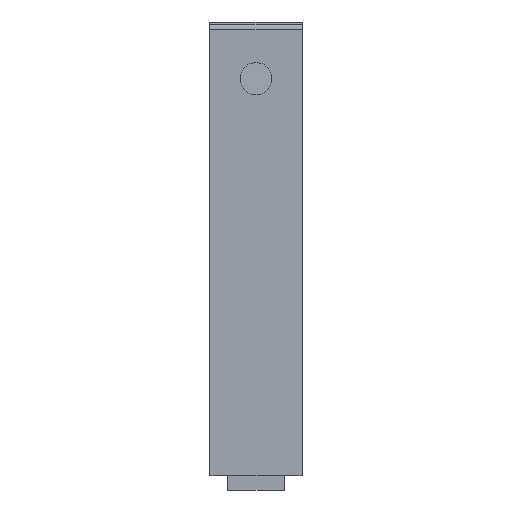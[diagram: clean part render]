
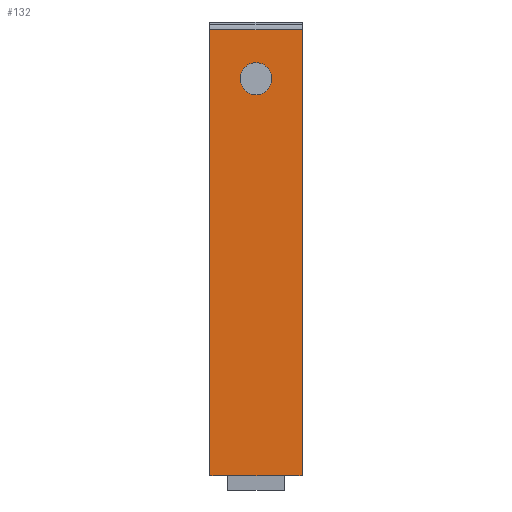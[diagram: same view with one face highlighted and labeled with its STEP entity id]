
A CAD part, left-side view. The second image highlights one B-rep face of the part: STEP entity #132.
In plain terms, the highlighted planar face has unit normal (-1, 0, 0).
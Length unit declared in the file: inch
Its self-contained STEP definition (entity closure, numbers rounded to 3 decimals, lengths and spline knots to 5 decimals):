
#132=ADVANCED_FACE('',(#275,#276),#277,.T.);
#275=FACE_OUTER_BOUND('',#511,.T.);
#276=FACE_BOUND('',#512,.T.);
#277=PLANE('',#513);
#511=EDGE_LOOP('',(#865,#866,#867,#868,#869,#870));
#512=EDGE_LOOP('',(#871,#872,#873,#874));
#513=AXIS2_PLACEMENT_3D('',#875,#876,#877);
#865=ORIENTED_EDGE('',*,*,#1077,.F.);
#866=ORIENTED_EDGE('',*,*,#1105,.T.);
#867=ORIENTED_EDGE('',*,*,#1045,.F.);
#868=ORIENTED_EDGE('',*,*,#1060,.F.);
#869=ORIENTED_EDGE('',*,*,#1009,.F.);
#870=ORIENTED_EDGE('',*,*,#1033,.F.);
#871=ORIENTED_EDGE('',*,*,#1028,.F.);
#872=ORIENTED_EDGE('',*,*,#1106,.F.);
#873=ORIENTED_EDGE('',*,*,#1067,.F.);
#874=ORIENTED_EDGE('',*,*,#1101,.F.);
#875=CARTESIAN_POINT('',(0.0,0.40625,4.));
#876=DIRECTION('',(-1.0,0.0,0.0));
#877=DIRECTION('',(0.0,1.0,0.0));
#1009=EDGE_CURVE('',#1219,#1217,#1221,.T.);
#1028=EDGE_CURVE('',#1252,#1253,#1254,.T.);
#1033=EDGE_CURVE('',#1258,#1219,#1261,.T.);
#1045=EDGE_CURVE('',#1274,#1276,#1277,.T.);
#1060=EDGE_CURVE('',#1217,#1274,#1298,.T.);
#1067=EDGE_CURVE('',#1305,#1306,#1307,.T.);
#1077=EDGE_CURVE('',#1319,#1258,#1321,.T.);
#1101=EDGE_CURVE('',#1253,#1305,#1351,.T.);
#1105=EDGE_CURVE('',#1319,#1276,#1355,.T.);
#1106=EDGE_CURVE('',#1306,#1252,#1356,.T.);
#1217=VERTEX_POINT('',#1548);
#1219=VERTEX_POINT('',#1551);
#1221=LINE('',#1554,#1555);
#1252=VERTEX_POINT('',#1622);
#1253=VERTEX_POINT('',#1623);
#1254=B_SPLINE_CURVE_WITH_KNOTS('',3,(#1624,#1625,#1626,#1627),.UNSPECIFIED.,.F.,.F.,(4,4),(-1.0,-0.0),.UNSPECIFIED.);
#1258=VERTEX_POINT('',#1633);
#1261=LINE('',#1636,#1637);
#1274=VERTEX_POINT('',#1653);
#1276=VERTEX_POINT('',#1656);
#1277=LINE('',#1657,#1658);
#1298=LINE('',#1693,#1694);
#1305=VERTEX_POINT('',#1705);
#1306=VERTEX_POINT('',#1706);
#1307=B_SPLINE_CURVE_WITH_KNOTS('',3,(#1707,#1708,#1709,#1710),.UNSPECIFIED.,.F.,.F.,(4,4),(-1.0,-0.0),.UNSPECIFIED.);
#1319=VERTEX_POINT('',#1726);
#1321=LINE('',#1728,#1729);
#1351=B_SPLINE_CURVE_WITH_KNOTS('',3,(#1781,#1782,#1783,#1784),.UNSPECIFIED.,.F.,.F.,(4,4),(-1.0,-0.0),.UNSPECIFIED.);
#1355=LINE('',#1789,#1790);
#1356=B_SPLINE_CURVE_WITH_KNOTS('',3,(#1791,#1792,#1793,#1794),.UNSPECIFIED.,.F.,.F.,(4,4),(-1.0,-0.0),.UNSPECIFIED.);
#1548=CARTESIAN_POINT('',(0.0,0.15625,0.));
#1551=CARTESIAN_POINT('',(0.0,0.,0.));
#1554=CARTESIAN_POINT('',(0.0,0.,0.));
#1555=VECTOR('',#1841,1.);
#1622=CARTESIAN_POINT('',(0.0,0.40625,3.641));
#1623=CARTESIAN_POINT('',(0.0,0.5469,3.50037));
#1624=CARTESIAN_POINT('',(0.0,0.40625,3.641));
#1625=CARTESIAN_POINT('',(0.0,0.48393,3.641));
#1626=CARTESIAN_POINT('',(0.0,0.5469,3.57804));
#1627=CARTESIAN_POINT('',(0.0,0.5469,3.50037));
#1633=CARTESIAN_POINT('',(0.0,0.0,3.93));
#1636=CARTESIAN_POINT('',(0.0,0.0,4.));
#1637=VECTOR('',#1853,1.);
#1653=CARTESIAN_POINT('',(0.0,0.65625,0.));
#1656=CARTESIAN_POINT('',(0.0,0.8125,0.));
#1657=CARTESIAN_POINT('',(0.0,0.,0.));
#1658=VECTOR('',#1870,1.);
#1693=CARTESIAN_POINT('',(0.0,0.53125,0.));
#1694=VECTOR('',#1879,1.0);
#1705=CARTESIAN_POINT('',(0.0,0.40625,3.35975));
#1706=CARTESIAN_POINT('',(0.0,0.26561,3.50037));
#1707=CARTESIAN_POINT('',(0.0,0.40625,3.35975));
#1708=CARTESIAN_POINT('',(0.0,0.32857,3.35975));
#1709=CARTESIAN_POINT('',(0.0,0.26561,3.42271));
#1710=CARTESIAN_POINT('',(0.0,0.26561,3.50037));
#1726=CARTESIAN_POINT('',(0.0,0.8125,3.93));
#1728=CARTESIAN_POINT('',(0.0,0.40625,3.93));
#1729=VECTOR('',#1897,1.);
#1781=CARTESIAN_POINT('',(0.0,0.5469,3.50037));
#1782=CARTESIAN_POINT('',(0.0,0.5469,3.42271));
#1783=CARTESIAN_POINT('',(0.0,0.48393,3.35975));
#1784=CARTESIAN_POINT('',(0.0,0.40625,3.35975));
#1789=CARTESIAN_POINT('',(0.0,0.8125,4.));
#1790=VECTOR('',#1909,1.);
#1791=CARTESIAN_POINT('',(0.0,0.26561,3.50037));
#1792=CARTESIAN_POINT('',(0.0,0.26561,3.57804));
#1793=CARTESIAN_POINT('',(0.0,0.32857,3.641));
#1794=CARTESIAN_POINT('',(0.0,0.40625,3.641));
#1841=DIRECTION('',(0.0,1.0,0.0));
#1853=DIRECTION('',(0.0,0.0,-1.0));
#1870=DIRECTION('',(0.0,1.0,0.0));
#1879=DIRECTION('',(0.0,1.0,0.0));
#1897=DIRECTION('',(0.0,-1.0,0.0));
#1909=DIRECTION('',(0.0,0.0,-1.0));
